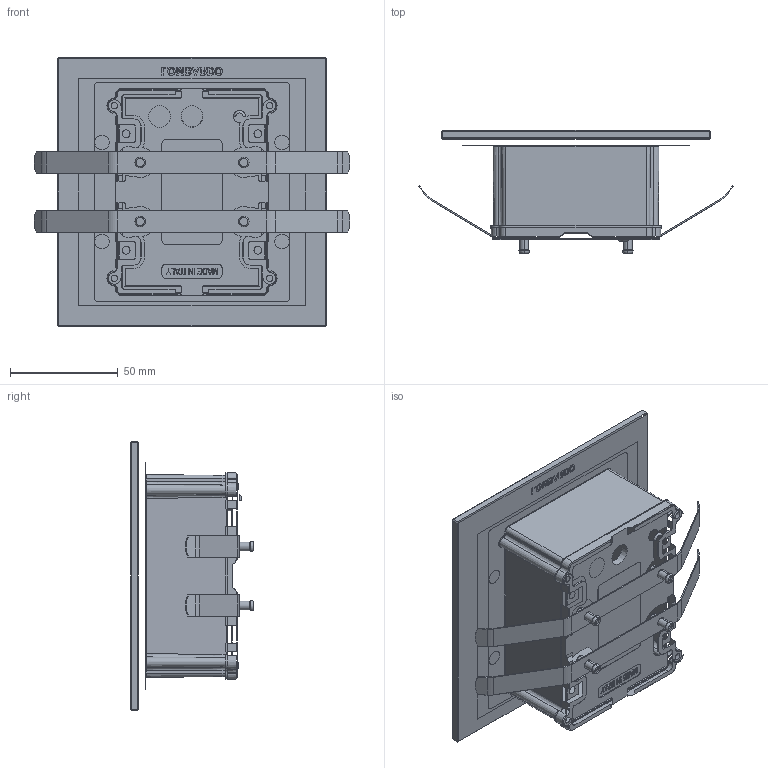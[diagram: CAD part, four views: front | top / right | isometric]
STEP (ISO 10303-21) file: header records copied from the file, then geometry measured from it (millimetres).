
FILE_DESCRIPTION((''),'2;1');
FILE_NAME('VERSIONE-CARTONGESSO_SW0004','2025-07-29T12:07:29',('Piccioli'),(''),'CREO PARAMETRIC BY PTC INC, 2025010','CREO PARAMETRIC BY PTC INC, 2025010','');
FILE_SCHEMA(('CONFIG_CONTROL_DESIGN'));
Length unit declared in the file: millimetre
Products named in the file (1): VERSIONE-CARTONGESSO_SW0004
Bounding box: 146.3 x 57.24 x 125 mm (x, y, z)
Surface area: 65175.3 mm2 (no closed solid volume)
Topology: 0 solids, 62 shells, 176 faces, 1188 edges, 1057 vertices
Faces by surface type: plane 94, cone 33, cylinder 32, bspline 16, torus 1
Entity records: 13185 total; most frequent: CARTESIAN_POINT 4809, DIRECTION 1603, ORIENTED_EDGE 1363, EDGE_CURVE 1188, VERTEX_POINT 1057, VECTOR 681, LINE 681, AXIS2_PLACEMENT_3D 461
